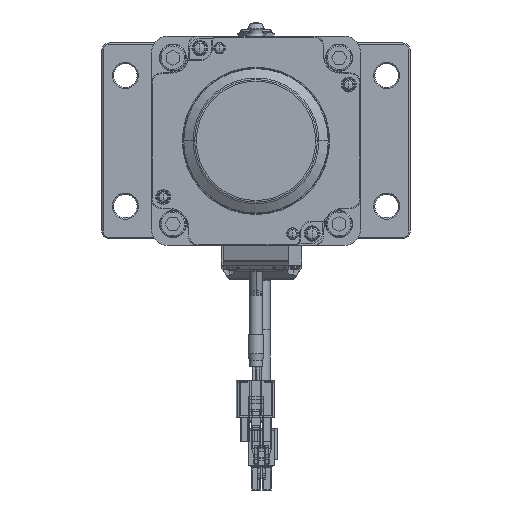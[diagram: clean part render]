
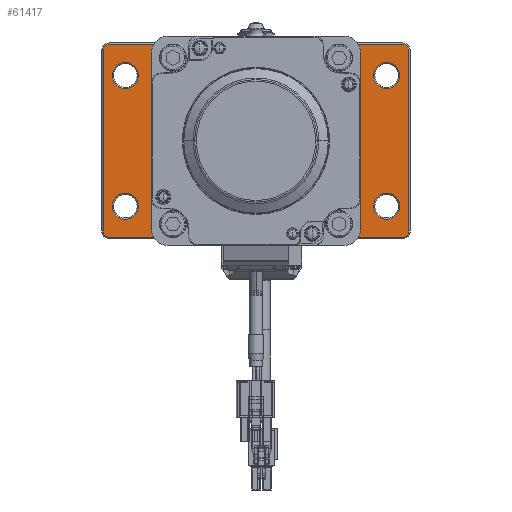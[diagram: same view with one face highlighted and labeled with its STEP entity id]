
A CAD part, front view. The second image highlights one B-rep face of the part: STEP entity #61417.
In plain terms, the highlighted planar face has unit normal (0, -1, 0).
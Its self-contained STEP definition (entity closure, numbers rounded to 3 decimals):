
#60084=CARTESIAN_POINT('',(0.,-6.,0.));
#60085=DIRECTION('',(0.,1.,0.));
#60086=DIRECTION('',(-1.,0.,0.));
#60087=AXIS2_PLACEMENT_3D('',#60084,#60085,#60086);
#60089=CARTESIAN_POINT('',(0.,-6.,0.));
#60090=DIRECTION('',(0.,1.,0.));
#60091=DIRECTION('',(1.,0.,0.));
#60092=AXIS2_PLACEMENT_3D('',#60089,#60090,#60091);
#60094=CARTESIAN_POINT('',(-50.,-6.,25.));
#60095=DIRECTION('',(0.,1.,0.));
#60096=DIRECTION('',(1.,0.,0.));
#60097=AXIS2_PLACEMENT_3D('',#60094,#60095,#60096);
#60099=CARTESIAN_POINT('',(-50.,-6.,25.));
#60100=DIRECTION('',(0.,1.,0.));
#60101=DIRECTION('',(-1.,0.,0.));
#60102=AXIS2_PLACEMENT_3D('',#60099,#60100,#60101);
#60104=CARTESIAN_POINT('',(50.,-6.,25.));
#60105=DIRECTION('',(0.,1.,0.));
#60106=DIRECTION('',(1.,0.,0.));
#60107=AXIS2_PLACEMENT_3D('',#60104,#60105,#60106);
#60109=CARTESIAN_POINT('',(50.,-6.,25.));
#60110=DIRECTION('',(0.,1.,0.));
#60111=DIRECTION('',(-1.,0.,0.));
#60112=AXIS2_PLACEMENT_3D('',#60109,#60110,#60111);
#60114=CARTESIAN_POINT('',(50.,-6.,-25.));
#60115=DIRECTION('',(0.,1.,0.));
#60116=DIRECTION('',(1.,0.,0.));
#60117=AXIS2_PLACEMENT_3D('',#60114,#60115,#60116);
#60119=CARTESIAN_POINT('',(50.,-6.,-25.));
#60120=DIRECTION('',(0.,1.,0.));
#60121=DIRECTION('',(-1.,0.,0.));
#60122=AXIS2_PLACEMENT_3D('',#60119,#60120,#60121);
#60124=CARTESIAN_POINT('',(-50.,-6.,-25.));
#60125=DIRECTION('',(0.,1.,0.));
#60126=DIRECTION('',(1.,0.,0.));
#60127=AXIS2_PLACEMENT_3D('',#60124,#60125,#60126);
#60129=CARTESIAN_POINT('',(-50.,-6.,-25.));
#60130=DIRECTION('',(0.,1.,0.));
#60131=DIRECTION('',(-1.,0.,0.));
#60132=AXIS2_PLACEMENT_3D('',#60129,#60130,#60131);
#60134=CARTESIAN_POINT('',(-56.,-6.,34.5));
#60135=DIRECTION('',(0.,-1.,0.));
#60136=DIRECTION('',(0.,0.,1.));
#60137=AXIS2_PLACEMENT_3D('',#60134,#60135,#60136);
#60139=DIRECTION('',(-1.,0.,0.));
#60140=VECTOR('',#60139,112.);
#60141=CARTESIAN_POINT('',(56.,-6.,
37.));
#60142=LINE('',#60141,#60140);
#60143=CARTESIAN_POINT('',(56.,-6.,34.5));
#60144=DIRECTION('',(0.,-1.,0.));
#60145=DIRECTION('',(1.,0.,0.));
#60146=AXIS2_PLACEMENT_3D('',#60143,#60144,#60145);
#60148=DIRECTION('',(0.,0.,1.));
#60149=VECTOR('',#60148,69.);
#60150=CARTESIAN_POINT('',(58.5,-6.,
-34.5));
#60151=LINE('',#60150,#60149);
#60152=CARTESIAN_POINT('',(56.,-6.,-34.5));
#60153=DIRECTION('',(0.,-1.,0.));
#60154=DIRECTION('',(0.,0.,-1.));
#60155=AXIS2_PLACEMENT_3D('',#60152,#60153,#60154);
#60157=DIRECTION('',(1.,0.,0.));
#60158=VECTOR('',#60157,112.);
#60159=CARTESIAN_POINT('',(-56.,-6.,
-37.));
#60160=LINE('',#60159,#60158);
#60161=CARTESIAN_POINT('',(-56.,-6.,-34.5));
#60162=DIRECTION('',(0.,-1.,0.));
#60163=DIRECTION('',(-1.,0.,0.));
#60164=AXIS2_PLACEMENT_3D('',#60161,#60162,#60163);
#60166=DIRECTION('',(0.,0.,-1.));
#60167=VECTOR('',#60166,69.);
#60168=CARTESIAN_POINT('',(-58.5,-6.,
34.5));
#60169=LINE('',#60168,#60167);
#60170=CARTESIAN_POINT('',(28.25,-6.,-28.25));
#60171=DIRECTION('',(0.,1.,0.));
#60172=DIRECTION('',(1.,0.,0.));
#60173=AXIS2_PLACEMENT_3D('',#60170,#60171,#60172);
#60175=CARTESIAN_POINT('',(28.25,-6.,-28.25));
#60176=DIRECTION('',(0.,1.,0.));
#60177=DIRECTION('',(-1.,0.,0.));
#60178=AXIS2_PLACEMENT_3D('',#60175,#60176,#60177);
#60180=CARTESIAN_POINT('',(-28.25,-6.,-28.25));
#60181=DIRECTION('',(0.,1.,0.));
#60182=DIRECTION('',(1.,0.,0.));
#60183=AXIS2_PLACEMENT_3D('',#60180,#60181,#60182);
#60185=CARTESIAN_POINT('',(-28.25,-6.,-28.25));
#60186=DIRECTION('',(0.,1.,0.));
#60187=DIRECTION('',(-1.,0.,0.));
#60188=AXIS2_PLACEMENT_3D('',#60185,#60186,#60187);
#60190=CARTESIAN_POINT('',(28.25,-6.,28.25));
#60191=DIRECTION('',(0.,1.,0.));
#60192=DIRECTION('',(1.,0.,0.));
#60193=AXIS2_PLACEMENT_3D('',#60190,#60191,#60192);
#60195=CARTESIAN_POINT('',(28.25,-6.,28.25));
#60196=DIRECTION('',(0.,1.,0.));
#60197=DIRECTION('',(-1.,0.,0.));
#60198=AXIS2_PLACEMENT_3D('',#60195,#60196,#60197);
#60200=CARTESIAN_POINT('',(-28.25,-6.,28.25));
#60201=DIRECTION('',(0.,1.,0.));
#60202=DIRECTION('',(1.,0.,0.));
#60203=AXIS2_PLACEMENT_3D('',#60200,#60201,#60202);
#60205=CARTESIAN_POINT('',(-28.25,-6.,28.25));
#60206=DIRECTION('',(0.,1.,0.));
#60207=DIRECTION('',(-1.,0.,0.));
#60208=AXIS2_PLACEMENT_3D('',#60205,#60206,#60207);
#61092=CARTESIAN_POINT('',(-28.25,-6.,0.));
#61093=CARTESIAN_POINT('',(28.25,-6.,0.));
#61094=VERTEX_POINT('',#61092);
#61095=VERTEX_POINT('',#61093);
#61132=CARTESIAN_POINT('',(-45.,-6.,25.));
#61133=CARTESIAN_POINT('',(-55.,-6.,25.));
#61134=VERTEX_POINT('',#61132);
#61135=VERTEX_POINT('',#61133);
#61140=CARTESIAN_POINT('',(55.,-6.,25.));
#61141=CARTESIAN_POINT('',(45.,-6.,25.));
#61142=VERTEX_POINT('',#61140);
#61143=VERTEX_POINT('',#61141);
#61148=CARTESIAN_POINT('',(55.,-6.,-25.));
#61149=CARTESIAN_POINT('',(45.,-6.,-25.));
#61150=VERTEX_POINT('',#61148);
#61151=VERTEX_POINT('',#61149);
#61156=CARTESIAN_POINT('',(-45.,-6.,-25.));
#61157=CARTESIAN_POINT('',(-55.,-6.,-25.));
#61158=VERTEX_POINT('',#61156);
#61159=VERTEX_POINT('',#61157);
#61164=CARTESIAN_POINT('',(-56.,-6.,37.));
#61165=CARTESIAN_POINT('',(-58.5,-6.,34.5));
#61166=VERTEX_POINT('',#61164);
#61167=VERTEX_POINT('',#61165);
#61172=CARTESIAN_POINT('',(-58.5,-6.,
-34.5));
#61173=VERTEX_POINT('',#61172);
#61176=CARTESIAN_POINT('',(-56.,-6.,-37.));
#61177=VERTEX_POINT('',#61176);
#61180=CARTESIAN_POINT('',(56.,-6.,
-37.));
#61181=VERTEX_POINT('',#61180);
#61184=CARTESIAN_POINT('',(58.5,-6.,-34.5));
#61185=VERTEX_POINT('',#61184);
#61188=CARTESIAN_POINT('',(58.5,-6.,
34.5));
#61189=VERTEX_POINT('',#61188);
#61192=CARTESIAN_POINT('',(56.,-6.,37.));
#61193=VERTEX_POINT('',#61192);
#61244=CARTESIAN_POINT('',(33.05,-6.,-28.25));
#61245=CARTESIAN_POINT('',(23.45,-6.,-28.25));
#61246=VERTEX_POINT('',#61244);
#61247=VERTEX_POINT('',#61245);
#61252=CARTESIAN_POINT('',(-23.45,-6.,-28.25));
#61253=CARTESIAN_POINT('',(-33.05,-6.,-28.25));
#61254=VERTEX_POINT('',#61252);
#61255=VERTEX_POINT('',#61253);
#61260=CARTESIAN_POINT('',(33.05,-6.,28.25));
#61261=CARTESIAN_POINT('',(23.45,-6.,28.25));
#61262=VERTEX_POINT('',#61260);
#61263=VERTEX_POINT('',#61261);
#61268=CARTESIAN_POINT('',(-23.45,-6.,28.25));
#61269=CARTESIAN_POINT('',(-33.05,-6.,28.25));
#61270=VERTEX_POINT('',#61268);
#61271=VERTEX_POINT('',#61269);
#61340=CARTESIAN_POINT('',(0.,-6.,0.));
#61341=DIRECTION('',(0.,1.,0.));
#61342=DIRECTION('',(1.,0.,0.));
#61343=AXIS2_PLACEMENT_3D('',#61340,#61341,#61342);
#61344=PLANE('',#61343);
#61346=ORIENTED_EDGE('',*,*,#61345,.F.);
#61348=ORIENTED_EDGE('',*,*,#61347,.F.);
#61350=ORIENTED_EDGE('',*,*,#61349,.F.);
#61352=ORIENTED_EDGE('',*,*,#61351,.F.);
#61354=ORIENTED_EDGE('',*,*,#61353,.F.);
#61356=ORIENTED_EDGE('',*,*,#61355,.F.);
#61358=ORIENTED_EDGE('',*,*,#61357,.F.);
#61360=ORIENTED_EDGE('',*,*,#61359,.F.);
#61361=EDGE_LOOP('',(#61346,#61348,#61350,#61352,#61354,#61356,#61358,#61360));
#61362=FACE_OUTER_BOUND('',#61361,.F.);
#61364=ORIENTED_EDGE('',*,*,#61363,.F.);
#61366=ORIENTED_EDGE('',*,*,#61365,.F.);
#61367=EDGE_LOOP('',(#61364,#61366));
#61368=FACE_BOUND('',#61367,.F.);
#61370=ORIENTED_EDGE('',*,*,#61369,.F.);
#61372=ORIENTED_EDGE('',*,*,#61371,.F.);
#61373=EDGE_LOOP('',(#61370,#61372));
#61374=FACE_BOUND('',#61373,.F.);
#61376=ORIENTED_EDGE('',*,*,#61375,.F.);
#61378=ORIENTED_EDGE('',*,*,#61377,.F.);
#61379=EDGE_LOOP('',(#61376,#61378));
#61380=FACE_BOUND('',#61379,.F.);
#61382=ORIENTED_EDGE('',*,*,#61381,.F.);
#61384=ORIENTED_EDGE('',*,*,#61383,.F.);
#61385=EDGE_LOOP('',(#61382,#61384));
#61386=FACE_BOUND('',#61385,.F.);
#61388=ORIENTED_EDGE('',*,*,#61387,.F.);
#61390=ORIENTED_EDGE('',*,*,#61389,.F.);
#61391=EDGE_LOOP('',(#61388,#61390));
#61392=FACE_BOUND('',#61391,.F.);
#61394=ORIENTED_EDGE('',*,*,#61393,.F.);
#61396=ORIENTED_EDGE('',*,*,#61395,.F.);
#61397=EDGE_LOOP('',(#61394,#61396));
#61398=FACE_BOUND('',#61397,.F.);
#61400=ORIENTED_EDGE('',*,*,#61399,.F.);
#61402=ORIENTED_EDGE('',*,*,#61401,.F.);
#61403=EDGE_LOOP('',(#61400,#61402));
#61404=FACE_BOUND('',#61403,.F.);
#61406=ORIENTED_EDGE('',*,*,#61405,.F.);
#61408=ORIENTED_EDGE('',*,*,#61407,.F.);
#61409=EDGE_LOOP('',(#61406,#61408));
#61410=FACE_BOUND('',#61409,.F.);
#61412=ORIENTED_EDGE('',*,*,#61411,.F.);
#61414=ORIENTED_EDGE('',*,*,#61413,.F.);
#61415=EDGE_LOOP('',(#61412,#61414));
#61416=FACE_BOUND('',#61415,.F.);
#61417=ADVANCED_FACE('',(#61362,#61368,#61374,#61380,#61386,#61392,#61398,
#61404,#61410,#61416),#61344,.F.);
#60088=CIRCLE('',#60087,28.25);
#60093=CIRCLE('',#60092,28.25);
#60098=CIRCLE('',#60097,5.);
#60103=CIRCLE('',#60102,5.);
#60108=CIRCLE('',#60107,5.);
#60113=CIRCLE('',#60112,5.);
#60118=CIRCLE('',#60117,5.);
#60123=CIRCLE('',#60122,5.);
#60128=CIRCLE('',#60127,5.);
#60133=CIRCLE('',#60132,5.);
#60138=CIRCLE('',#60137,2.5);
#60147=CIRCLE('',#60146,2.5);
#60156=CIRCLE('',#60155,2.5);
#60165=CIRCLE('',#60164,2.5);
#60174=CIRCLE('',#60173,4.8);
#60179=CIRCLE('',#60178,4.8);
#60184=CIRCLE('',#60183,4.8);
#60189=CIRCLE('',#60188,4.8);
#60194=CIRCLE('',#60193,4.8);
#60199=CIRCLE('',#60198,4.8);
#60204=CIRCLE('',#60203,4.8);
#60209=CIRCLE('',#60208,4.8);
#61345=EDGE_CURVE('',#61166,#61167,#60138,.T.);
#61347=EDGE_CURVE('',#61193,#61166,#60142,.T.);
#61349=EDGE_CURVE('',#61189,#61193,#60147,.T.);
#61351=EDGE_CURVE('',#61185,#61189,#60151,.T.);
#61353=EDGE_CURVE('',#61181,#61185,#60156,.T.);
#61355=EDGE_CURVE('',#61177,#61181,#60160,.T.);
#61357=EDGE_CURVE('',#61173,#61177,#60165,.T.);
#61359=EDGE_CURVE('',#61167,#61173,#60169,.T.);
#61363=EDGE_CURVE('',#61134,#61135,#60098,.T.);
#61365=EDGE_CURVE('',#61135,#61134,#60103,.T.);
#61369=EDGE_CURVE('',#61142,#61143,#60108,.T.);
#61371=EDGE_CURVE('',#61143,#61142,#60113,.T.);
#61375=EDGE_CURVE('',#61150,#61151,#60118,.T.);
#61377=EDGE_CURVE('',#61151,#61150,#60123,.T.);
#61381=EDGE_CURVE('',#61158,#61159,#60128,.T.);
#61383=EDGE_CURVE('',#61159,#61158,#60133,.T.);
#61387=EDGE_CURVE('',#61094,#61095,#60088,.T.);
#61389=EDGE_CURVE('',#61095,#61094,#60093,.T.);
#61393=EDGE_CURVE('',#61246,#61247,#60174,.T.);
#61395=EDGE_CURVE('',#61247,#61246,#60179,.T.);
#61399=EDGE_CURVE('',#61254,#61255,#60184,.T.);
#61401=EDGE_CURVE('',#61255,#61254,#60189,.T.);
#61405=EDGE_CURVE('',#61262,#61263,#60194,.T.);
#61407=EDGE_CURVE('',#61263,#61262,#60199,.T.);
#61411=EDGE_CURVE('',#61270,#61271,#60204,.T.);
#61413=EDGE_CURVE('',#61271,#61270,#60209,.T.);
